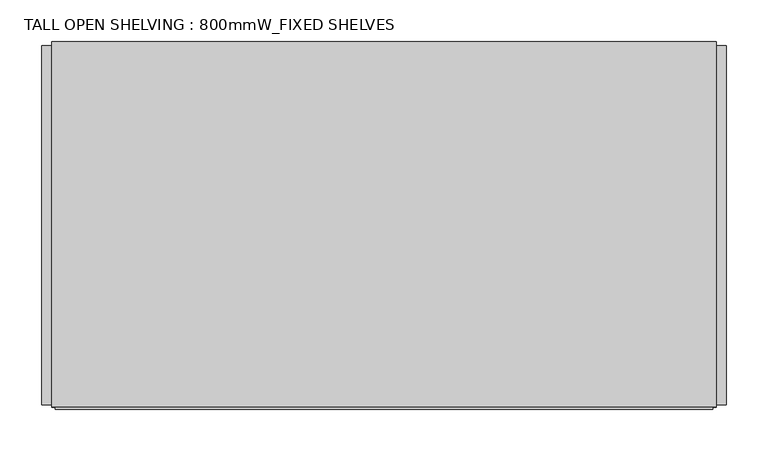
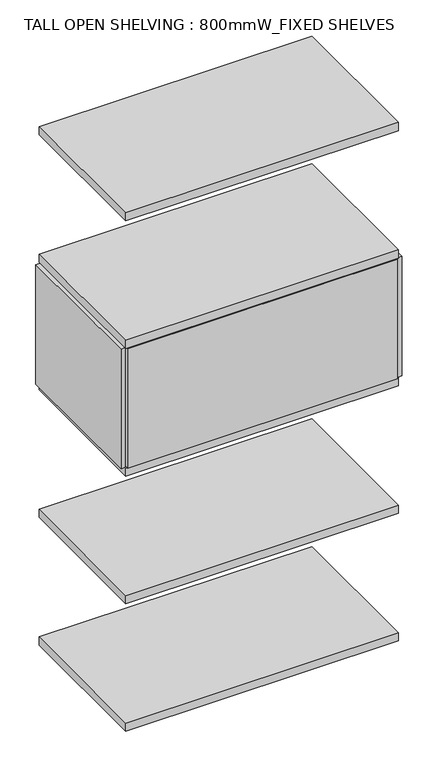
"""IFC4 building model written with IfcOpenShell, lengths in millimetres: furniture geometry, TALL OPEN SHELVING : 800mmW_FIXED SHELVES."""

import ifcopenshell
import ifcopenshell.guid

model = None  # the IFC model being written
_history = None  # IfcOwnerHistory: only IFC2X3 demands one
_inside = {}  # id of a spatial element -> (the spatial element, [elements in it])
_under = {}  # id of a project, library or spatial element -> (it, [spatial elements below it])
_declared = {}  # id of a project -> (the project, [libraries it declares])
_typed = {}  # id of a type object -> (the type object, [elements of that type])
_made_of = {}  # id of a material, layer set ... -> (it, [elements and type objects made of it])


def new_model(schema):
    """Start an empty IFC model of exactly this schema.

    Asked for "IFC4X3", IfcOpenShell would pick the latest addendum, in which some entities
    have other attributes; the version numbers below select the first issue.
    IFC2X3 requires an IfcOwnerHistory on every rooted entity: one is made here for all.
    """
    global model, _history
    if schema == "IFC4X3":
        model = ifcopenshell.file(schema_version=(4, 3, 0, 0))
    else:
        model = ifcopenshell.file(schema=schema)
    _inside.clear()
    _under.clear()
    _declared.clear()
    _typed.clear()
    _made_of.clear()
    _history = None
    if model.schema == "IFC2X3":
        org = make("IfcOrganization", Name="unknown")
        user = make(
            "IfcPersonAndOrganization",
            ThePerson=make("IfcPerson", FamilyName="unknown"),
            TheOrganization=org,
        )
        app = make(
            "IfcApplication",
            ApplicationDeveloper=org,
            Version="unknown",
            ApplicationFullName="unknown",
            ApplicationIdentifier="unknown",
        )
        _history = make(
            "IfcOwnerHistory",
            OwningUser=user,
            OwningApplication=app,
            ChangeAction="ADDED",
            CreationDate=0,
        )
    return model


def make(cls, **values):
    """One entity of the class cls with the attributes given. An attribute that is None is left unset."""
    return model.create_entity(
        cls, **{name: value for name, value in values.items() if value is not None}
    )


def rooted(cls, **values):
    """An entity with a GlobalId (a new one), such as an element, a storey or a relation."""
    return make(cls, GlobalId=ifcopenshell.guid.new(), OwnerHistory=_history, **values)


def si_unit(unit_type, name, prefix=None):
    """IfcSIUnit, for example si_unit("LENGTHUNIT", "METRE", prefix="MILLI")."""
    return make("IfcSIUnit", UnitType=unit_type, Prefix=prefix, Name=name)


def assignment(units):
    """IfcUnitAssignment: the units of a project."""
    return None if units is None else make("IfcUnitAssignment", Units=units)


def point(xyz):
    """IfcCartesianPoint."""
    return None if xyz is None else make("IfcCartesianPoint", Coordinates=xyz)


def direction(xyz):
    """IfcDirection."""
    return None if xyz is None else make("IfcDirection", DirectionRatios=xyz)


def frame(location, z_axis=None, x_axis=None):
    """IfcAxis2Placement3D, a coordinate frame: its origin and axes. An axis left out is left unset."""
    return make(
        "IfcAxis2Placement3D",
        Location=point(location),
        Axis=direction(z_axis),
        RefDirection=direction(x_axis),
    )


def origin():
    """The frame at (0, 0, 0) with its axes left unset."""
    return frame((0.0, 0.0, 0.0))


def place(relative_to, where):
    """IfcLocalPlacement: puts the frame where relative to a parent placement (None: the world)."""
    return make(
        "IfcLocalPlacement", PlacementRelTo=relative_to, RelativePlacement=where
    )


def context(
    kind, dimensions, precision=None, world=None, true_north=None, identifier=None
):
    """IfcGeometricRepresentationContext, for example the 3D "Model" context."""
    return make(
        "IfcGeometricRepresentationContext",
        ContextIdentifier=identifier,
        ContextType=kind,
        CoordinateSpaceDimension=dimensions,
        Precision=precision,
        WorldCoordinateSystem=world,
        TrueNorth=true_north,
    )


def project(units=None, contexts=None):
    """IfcProject with its units and contexts."""
    return rooted(
        "IfcProject",
        Name="project",
        RepresentationContexts=contexts,
        UnitsInContext=assignment(units),
    )


def spatial(cls, under=None, at=None, **own):
    """A site, building, storey or space (cls), placed at a placement, below another one or the project."""
    s = rooted(cls, ObjectPlacement=at, **own)
    if under is not None:
        _under.setdefault(under.id(), (under, []))[1].append(s)
    return s


def polyline(points):
    """IfcPolyline through the points."""
    return make("IfcPolyline", Points=[point(p) for p in points])


def outline(outer, holes=None, kind="AREA"):
    """IfcArbitraryClosedProfileDef: a profile drawn as a closed curve; with holes, ...WithVoids."""
    if holes is None:
        return make("IfcArbitraryClosedProfileDef", ProfileType=kind, OuterCurve=outer)
    return make(
        "IfcArbitraryProfileDefWithVoids",
        ProfileType=kind,
        OuterCurve=outer,
        InnerCurves=holes,
    )


def extrude(swept, where, along, depth):
    """IfcExtrudedAreaSolid: the profile swept, set in the frame where, extruded along a direction by depth."""
    return make(
        "IfcExtrudedAreaSolid",
        SweptArea=swept,
        Position=where,
        ExtrudedDirection=direction(along),
        Depth=depth,
    )


def shape(context_of_items, identifier, shape_type, items):
    """IfcShapeRepresentation: the items that make up one representation, for example the "Body"."""
    return make(
        "IfcShapeRepresentation",
        ContextOfItems=context_of_items,
        RepresentationIdentifier=identifier,
        RepresentationType=shape_type,
        Items=items,
    )


def source(mapping_origin, context_of_items, identifier, shape_type, items):
    """IfcRepresentationMap: a shape defined once, which mapped items show again and again."""
    return make(
        "IfcRepresentationMap",
        MappingOrigin=mapping_origin,
        MappedRepresentation=shape(context_of_items, identifier, shape_type, items),
    )


def transform(
    local_origin,
    x_axis=None,
    y_axis=None,
    z_axis=None,
    scale=None,
    scale2=None,
    scale3=None,
    uniform=True,
):
    """IfcCartesianTransformationOperator3D, or its non-uniform kind. x_axis, y_axis, z_axis: its Axis1, 2, 3."""
    if uniform:
        return make(
            "IfcCartesianTransformationOperator3D",
            Axis1=direction(x_axis),
            Axis2=direction(y_axis),
            LocalOrigin=point(local_origin),
            Scale=scale,
            Axis3=direction(z_axis),
        )
    return make(
        "IfcCartesianTransformationOperator3DnonUniform",
        Axis1=direction(x_axis),
        Axis2=direction(y_axis),
        LocalOrigin=point(local_origin),
        Scale=scale,
        Axis3=direction(z_axis),
        Scale2=scale2,
        Scale3=scale3,
    )


def mapped(mapping_source, mapping_target):
    """IfcMappedItem: shows the shape of a source again, moved by a transform."""
    return make(
        "IfcMappedItem", MappingSource=mapping_source, MappingTarget=mapping_target
    )


def made_of(thing, what):
    """Note that an element or type object is made of a material, layer set ...; save() writes the relation."""
    if what is not None:
        _made_of.setdefault(what.id(), (what, []))[1].append(thing)
    return thing


def element(
    cls,
    number,
    at=None,
    inside=None,
    cuts=None,
    type_object=None,
    material=None,
    context=None,
    identifier="Body",
    shape_type=None,
    held_by="IfcProductDefinitionShape",
    body=None,
    shapes=None,
    **own,
):
    """One element of the class cls, such as IfcWall. Its Tag is "e" and its number.

    at: its placement. inside: the storey or other place that contains it. cuts: it is an
    opening in that element (IfcRelVoidsElement). A single representation is given by context,
    identifier, shape_type and body (its items); several are given by shapes. held_by: the class
    of the entity that holds the representations. save() writes the other relations.
    """
    e = rooted(cls, Tag="e%d" % number, ObjectPlacement=at, **own)
    if body is not None:
        shapes = [shape(context, identifier, shape_type, body)]
    if shapes is not None:
        e.Representation = make(held_by, Representations=shapes)
    if inside is not None:
        _inside.setdefault(inside.id(), (inside, []))[1].append(e)
    if cuts is not None:
        rooted(
            "IfcRelVoidsElement", RelatingBuildingElement=cuts, RelatedOpeningElement=e
        )
    if type_object is not None:
        _typed.setdefault(type_object.id(), (type_object, []))[1].append(e)
    return made_of(e, material)


def aggregate(whole, parts):
    """IfcRelAggregates: a whole, such as a stair, and the parts it consists of."""
    return rooted("IfcRelAggregates", RelatingObject=whole, RelatedObjects=parts)


def save(model, path):
    """Write the relations noted so far, then the file.

    IfcRelAggregates (storeys below a building ...), IfcRelContainedInSpatialStructure (elements
    in a storey), IfcRelDefinesByType, IfcRelAssociatesMaterial and IfcRelDeclares: one each for
    every whole, place, type object, material and project.
    """
    for whole, parts in _under.values():
        aggregate(whole, parts)
    for where, things in _inside.values():
        rooted(
            "IfcRelContainedInSpatialStructure",
            RelatedElements=things,
            RelatingStructure=where,
        )
    for kind, things in _typed.values():
        rooted("IfcRelDefinesByType", RelatedObjects=things, RelatingType=kind)
    for what, things in _made_of.values():
        rooted("IfcRelAssociatesMaterial", RelatedObjects=things, RelatingMaterial=what)
    for by, libraries in _declared.values():
        rooted("IfcRelDeclares", RelatingContext=by, RelatedDefinitions=libraries)
    model.write(path)


def tall_open_shelving_800mmw_fixed_shelves_0423a41e(model_context):
    return source(origin(), model_context, "Body", "SweptSolid", [
        extrude(outline(polyline([(412.0, 214.7757931), (412.0, -217.1931665), (400.0, -217.1931665), (400.0, 214.7757931), (412.0, 214.7757931)])), frame((0.0, 0.0, 808.0), z_axis=(0.0, 0.0, 1.0), x_axis=(1.0, 0.0, 0.0)), (0.0, 0.0, 1.0), 370.0),
        extrude(outline(polyline([(400.0, -220.0), (-400.0, -220.0), (-400.0, 220.0), (400.0, 220.0), (400.0, -220.0)])), frame((0.0, 0.0, -7.0), z_axis=(0.0, 0.0, 1.0), x_axis=(1.0, 0.0, 0.0)), (0.0, 0.0, 1.0), 25.0),
        extrude(outline(polyline([(400.0, -220.0), (-400.0, -220.0), (-400.0, 220.0), (400.0, 220.0), (400.0, -220.0)])), frame((0.0, 0.0, 388.0), z_axis=(0.0, 0.0, 1.0), x_axis=(1.0, 0.0, 0.0)), (0.0, 0.0, 1.0), 25.0),
        extrude(outline(polyline([(400.0, -220.0), (-400.0, -220.0), (-400.0, 220.0), (400.0, 220.0), (400.0, -220.0)])), frame((0.0, 0.0, 783.0), z_axis=(0.0, 0.0, 1.0), x_axis=(1.0, 0.0, 0.0)), (0.0, 0.0, 1.0), 25.0),
        extrude(outline(polyline([(400.0, -220.0), (-400.0, -220.0), (-400.0, 220.0), (400.0, 220.0), (400.0, -220.0)])), frame((0.0, 0.0, 1178.0), z_axis=(0.0, 0.0, 1.0), x_axis=(1.0, 0.0, 0.0)), (0.0, 0.0, 1.0), 25.0),
        extrude(outline(polyline([(400.0, -220.0), (-400.0, -220.0), (-400.0, 220.0), (400.0, 220.0), (400.0, -220.0)])), frame((0.0, 0.0, 1573.0), z_axis=(0.0, 0.0, 1.0), x_axis=(1.0, 0.0, 0.0)), (0.0, 0.0, 1.0), 25.0),
        extrude(outline(polyline([(-400.0, 214.7757931), (-400.0, -217.1931665), (-412.0, -217.1931665), (-412.0, 214.7757931), (-400.0, 214.7757931)])), frame((0.0, 0.0, 808.0), z_axis=(0.0, 0.0, 1.0), x_axis=(1.0, 0.0, 0.0)), (0.0, 0.0, 1.0), 370.0),
        extrude(outline(polyline([(395.4939356, -222.7282814), (-395.4939356, -222.7282814), (-395.4939356, -210.7282814), (395.4939356, -210.7282814), (395.4939356, -222.7282814)])), frame((0.0, 0.0, 808.0), z_axis=(0.0, 0.0, 1.0), x_axis=(1.0, 0.0, 0.0)), (0.0, 0.0, 1.0), 370.0),
    ])


if __name__ == "__main__":
    model = new_model("IFC4")
    model_context = context("Model", 3, world=origin())
    ifc_project = project(units=[si_unit("LENGTHUNIT", "METRE", prefix="MILLI")], contexts=[model_context])
    site = spatial("IfcSite", under=ifc_project)
    building = spatial("IfcBuilding", under=site)
    placement = place(None, origin())
    tall_open_shelving_800mmw_fixed_shelves_shape = tall_open_shelving_800mmw_fixed_shelves_0423a41e(model_context)
    element("IfcFurniture", 1, ObjectType="TALL OPEN SHELVING : 800mmW_FIXED SHELVES", at=placement, inside=building, context=model_context, shape_type="MappedRepresentation", body=[
        mapped(tall_open_shelving_800mmw_fixed_shelves_shape, transform((0.0, 0.0, 0.0), x_axis=(1.0, 0.0, 0.0), y_axis=(0.0, 1.0, 0.0), z_axis=(0.0, 0.0, 1.0))),
    ])
    save(model, "model.ifc")
